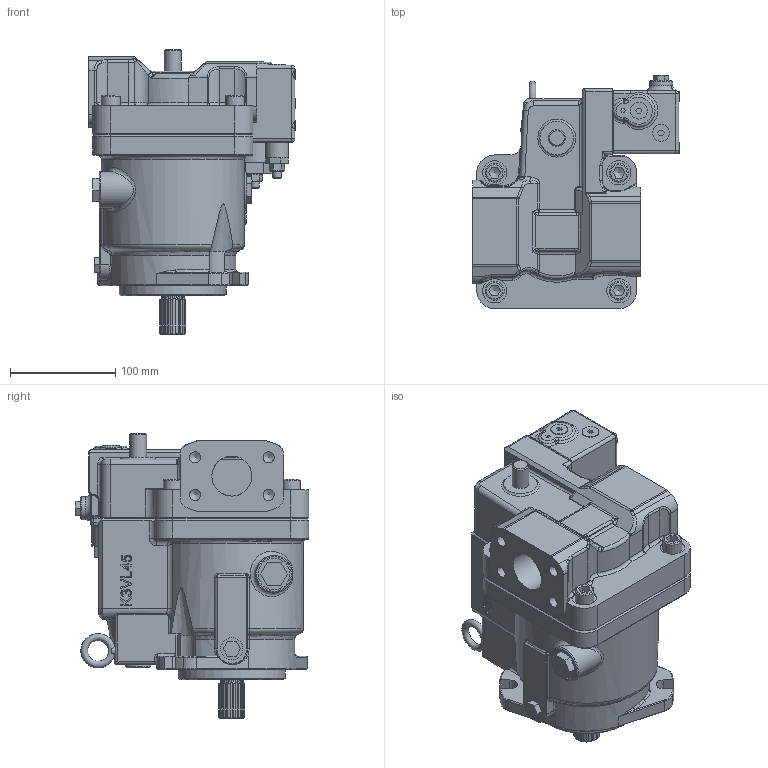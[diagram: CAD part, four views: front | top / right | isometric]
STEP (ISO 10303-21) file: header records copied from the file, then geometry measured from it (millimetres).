
FILE_DESCRIPTION((''),'2;1');
FILE_NAME('I:\3D Step files\Approved for WEB\K3V\K3VL45B 10RSS P0.stp','2013-03-05T09:13:44',('MNORMAN'),(''),'Autodesk Inventor 2013','Autodesk Inventor 2013','');
FILE_SCHEMA(('AUTOMOTIVE_DESIGN { 1 0 10303 214 1 1 1 1 }'));
Length unit declared in the file: millimetre
Products named in the file (1): Part7
Bounding box: 196.5 x 221.7 x 270.2 mm (x, y, z)
Volume: 4844260.6 mm3; surface area: 297131.8 mm2
Topology: 14 solids, 14 shells, 1076 faces, 2631 edges, 1612 vertices
Faces by surface type: plane 450, cylinder 298, bspline 149, cone 88, torus 69, sphere 22
Full cylindrical faces by diameter (mm): 4.917 x4, 6 x4, 6.5 x4, 7.798 x4, 8 x5, 8.376 x1, 10 x4, 10.106 x4, 10.592 x4, 11 x4, 12 x4, 13.835 x1, 15.5 x4, 16 x3, 18 x4, 21 x1, 21.3 x1, 22 x2, 23 x4, 24 x1, 25 x1, 30 x4, 32 x1, 36 x1, 38 x1, 90 x1, 101.6 x1, 105 x1
Entity records: 36288 total; most frequent: CARTESIAN_POINT 11645, ORIENTED_EDGE 4868, DIRECTION 4647, EDGE_CURVE 2434, AXIS2_PLACEMENT_3D 1759, VERTEX_POINT 1567, EDGE_LOOP 1269, VECTOR 1129
